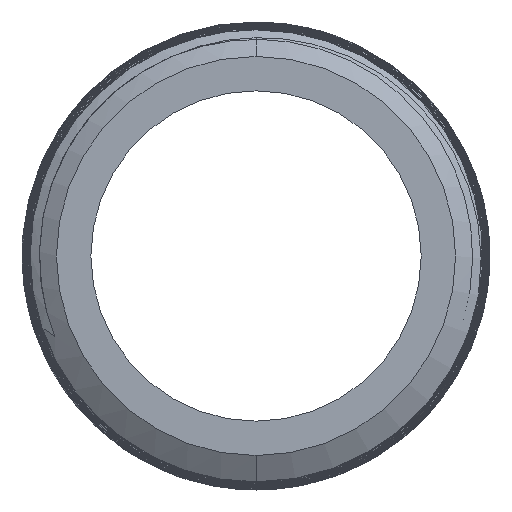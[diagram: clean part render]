
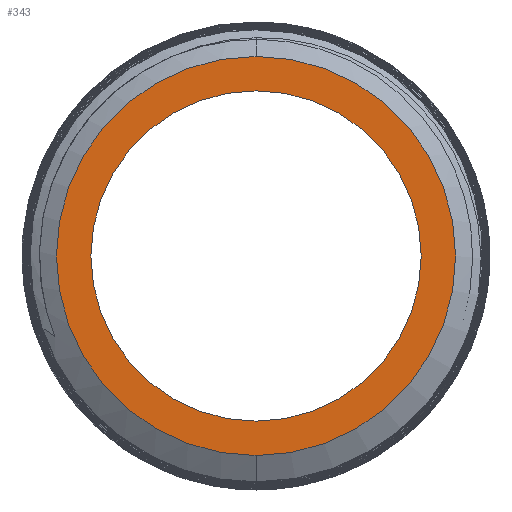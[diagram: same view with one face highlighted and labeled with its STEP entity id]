
A CAD part, left-side view. The second image highlights one B-rep face of the part: STEP entity #343.
In plain terms, the highlighted planar face has unit normal (-1, 0, 0).
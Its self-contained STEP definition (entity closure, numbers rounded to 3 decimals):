
#256 = DIRECTION ( 'NONE',  ( 0., 0., -1. ) ) ;
#313 = EDGE_LOOP ( 'NONE', ( #2817, #3615 ) ) ;
#343 = ADVANCED_FACE ( 'NONE', ( #5544, #2467 ), #783, .F. ) ;
#533 = DIRECTION ( 'NONE',  ( -1., 0., 0. ) ) ;
#575 = CARTESIAN_POINT ( 'NONE',  ( -30., 0., 0. ) ) ;
#577 = EDGE_LOOP ( 'NONE', ( #5674, #3273 ) ) ;
#686 = CIRCLE ( 'NONE', #2473, 4.35 ) ;
#704 = DIRECTION ( 'NONE',  ( 0., 0., 1. ) ) ;
#783 = PLANE ( 'NONE',  #2801 ) ;
#833 = EDGE_CURVE ( 'NONE', #1940, #2535, #2144, .T. ) ;
#1384 = DIRECTION ( 'NONE',  ( 1., 0., 0. ) ) ;
#1667 = VERTEX_POINT ( 'NONE', #1750 ) ;
#1750 = CARTESIAN_POINT ( 'NONE',  ( -30., 0., 3.6 ) ) ;
#1836 = DIRECTION ( 'NONE',  ( -1., 0., 0. ) ) ;
#1940 = VERTEX_POINT ( 'NONE', #6023 ) ;
#1947 = VERTEX_POINT ( 'NONE', #2865 ) ;
#2144 = CIRCLE ( 'NONE', #5240, 4.35 ) ;
#2365 = AXIS2_PLACEMENT_3D ( 'NONE', #4476, #1836, #6067 ) ;
#2467 = FACE_OUTER_BOUND ( 'NONE', #577, .T. ) ;
#2473 = AXIS2_PLACEMENT_3D ( 'NONE', #4785, #533, #3643 ) ;
#2535 = VERTEX_POINT ( 'NONE', #6362 ) ;
#2801 = AXIS2_PLACEMENT_3D ( 'NONE', #6043, #1384, #256 ) ;
#2817 = ORIENTED_EDGE ( 'NONE', *, *, #5343, .F. ) ;
#2865 = CARTESIAN_POINT ( 'NONE',  ( -30., 0., -3.6 ) ) ;
#3223 = DIRECTION ( 'NONE',  ( -1., 0., 0. ) ) ;
#3273 = ORIENTED_EDGE ( 'NONE', *, *, #4034, .T. ) ;
#3443 = EDGE_CURVE ( 'NONE', #1947, #1667, #5006, .T. ) ;
#3474 = AXIS2_PLACEMENT_3D ( 'NONE', #6380, #3223, #5323 ) ;
#3615 = ORIENTED_EDGE ( 'NONE', *, *, #3443, .F. ) ;
#3643 = DIRECTION ( 'NONE',  ( 0., 0., 1. ) ) ;
#4034 = EDGE_CURVE ( 'NONE', #2535, #1940, #686, .T. ) ;
#4476 = CARTESIAN_POINT ( 'NONE',  ( -30., 0., 0. ) ) ;
#4785 = CARTESIAN_POINT ( 'NONE',  ( -30., 0., 0. ) ) ;
#5006 = CIRCLE ( 'NONE', #3474, 3.6 ) ;
#5240 = AXIS2_PLACEMENT_3D ( 'NONE', #575, #5373, #704 ) ;
#5323 = DIRECTION ( 'NONE',  ( 0., 0., 1. ) ) ;
#5343 = EDGE_CURVE ( 'NONE', #1667, #1947, #6025, .T. ) ;
#5373 = DIRECTION ( 'NONE',  ( -1., 0., 0. ) ) ;
#5544 = FACE_BOUND ( 'NONE', #313, .T. ) ;
#5674 = ORIENTED_EDGE ( 'NONE', *, *, #833, .T. ) ;
#6023 = CARTESIAN_POINT ( 'NONE',  ( -30., 0., -4.35 ) ) ;
#6025 = CIRCLE ( 'NONE', #2365, 3.6 ) ;
#6043 = CARTESIAN_POINT ( 'NONE',  ( -30., 3.6, 0. ) ) ;
#6067 = DIRECTION ( 'NONE',  ( 0., 0., 1. ) ) ;
#6362 = CARTESIAN_POINT ( 'NONE',  ( -30., 0., 4.35 ) ) ;
#6380 = CARTESIAN_POINT ( 'NONE',  ( -30., 0., 0. ) ) ;
